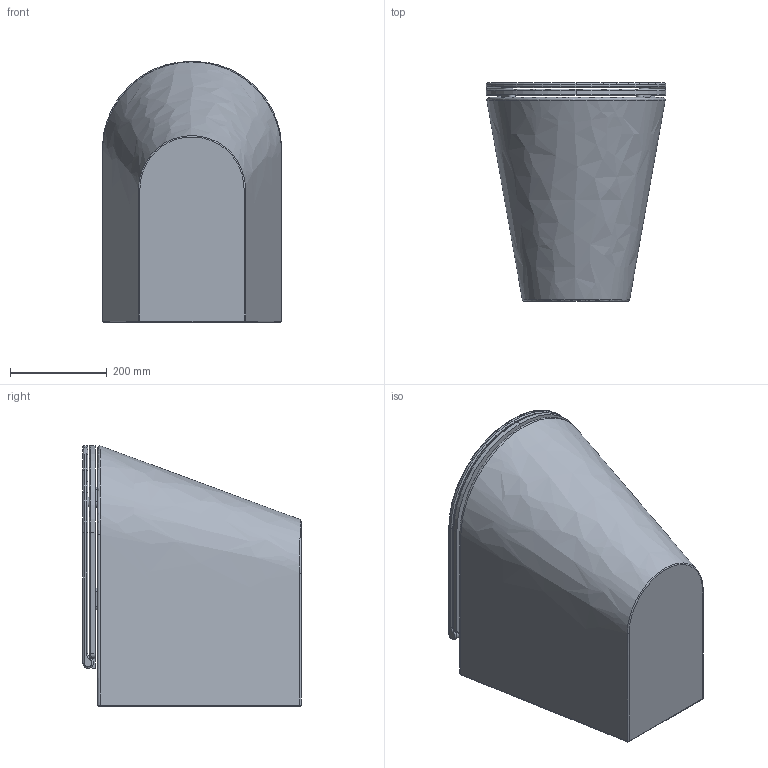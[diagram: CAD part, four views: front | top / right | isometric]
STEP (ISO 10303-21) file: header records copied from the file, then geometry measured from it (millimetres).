
FILE_DESCRIPTION (( 'STEP AP203' ), '1' );
FILE_NAME ('FMVCTPE0000W.STEP', '2025-04-16T14:45:50', ( '' ), ( '' ), 'SwSTEP 2.0', 'SolidWorks 2024', '' );
FILE_SCHEMA (( 'CONFIG_CONTROL_DESIGN' ));
Length unit declared in the file: millimetre
Products named in the file (3): SEDILE FORMA; FMVCTPE0000W; FORMA WC
Assembly tree (2 placements, depth 2):
  FMVCTPE0000W
    FORMA WC
    SEDILE FORMA
Bounding box: 370 x 450 x 538.57 mm (x, y, z)
Volume: 42881136.2 mm3; surface area: 1618299.4 mm2
Topology: 2 solids, 2 shells, 157 faces, 386 edges, 235 vertices
Faces by surface type: cylinder 53, plane 47, torus 29, bspline 24, sphere 4
Full cylindrical faces by diameter (mm): 16 x2, 20 x2, 55 x1, 100 x1
Entity records: 11058 total; most frequent: CARTESIAN_POINT 7205, DIRECTION 751, ORIENTED_EDGE 742, EDGE_CURVE 371, AXIS2_PLACEMENT_3D 308, VERTEX_POINT 232, EDGE_LOOP 179, CIRCLE 170
